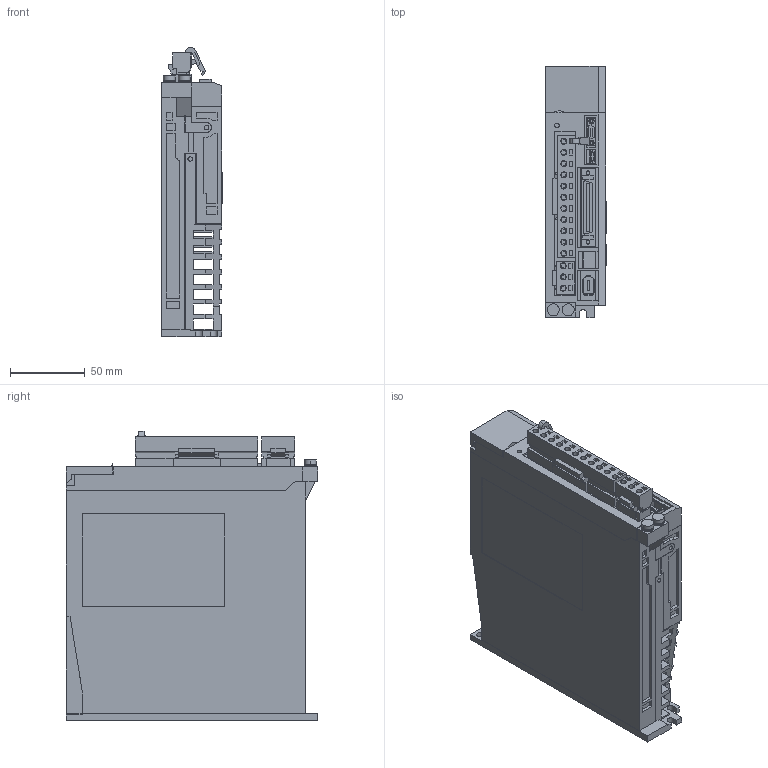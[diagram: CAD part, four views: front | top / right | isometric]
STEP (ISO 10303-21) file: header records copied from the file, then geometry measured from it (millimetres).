
FILE_DESCRIPTION (( 'STEP AP203' ), '1' );
FILE_NAME ('sgd7s_2r8a00a.STEP', '2014-03-06T04:30:11', ( '匠エンジニアリング山之内' ), ( 'TAKUMI-Engniaring' ), 'SwSTEP 2.0', 'SolidWorks 2006303', '' );
FILE_SCHEMA (( 'CONFIG_CONTROL_DESIGN' ));
Products named in the file (9): sgd7s_2r8a00a_base; sgd7s_2r8a00a_cover2; sgd7s_2r8a00a_connector_3; sgd7s_2r8a00a; sgd7s_2r8a00a_connector; sgd7s_2r8a00a_connector_2; sgd7s_2r8a00a_pin; sgd7s_2r8a00a_connector_1; sgd7s_2r8a00a_cover
Assembly tree (9 placements, depth 3):
  sgd7s_2r8a00a
    sgd7s_2r8a00a_connector
      sgd7s_2r8a00a_pin
      sgd7s_2r8a00a_connector_2
    sgd7s_2r8a00a_cover
    sgd7s_2r8a00a_base
    sgd7s_2r8a00a_cover2  x2
    sgd7s_2r8a00a_connector_3
    sgd7s_2r8a00a_connector_1
Bounding box: 40.5 x 168 x 193.83 mm (x, y, z)
Volume: 937795.6 mm3; surface area: 169845.4 mm2
Topology: 8 solids, 8 shells, 1671 faces, 4412 edges, 2912 vertices
Faces by surface type: plane 1465, cylinder 201, cone 4, sphere 1
Entity records: 51267 total; most frequent: CARTESIAN_POINT 8897, ORIENTED_EDGE 8716, DIRECTION 8094, EDGE_CURVE 4358, VECTOR 3948, LINE 3948, VERTEX_POINT 2876, AXIS2_PLACEMENT_3D 2073
